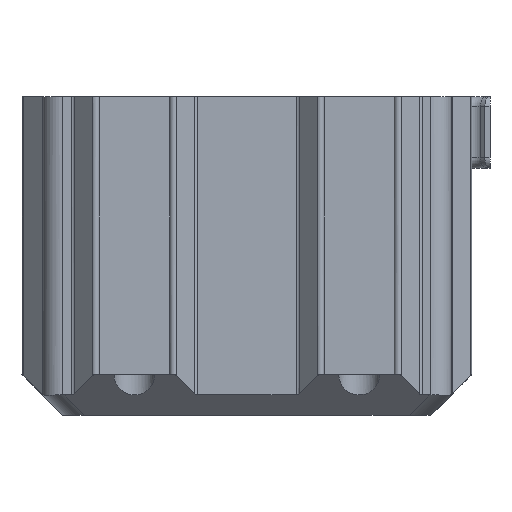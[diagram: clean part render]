
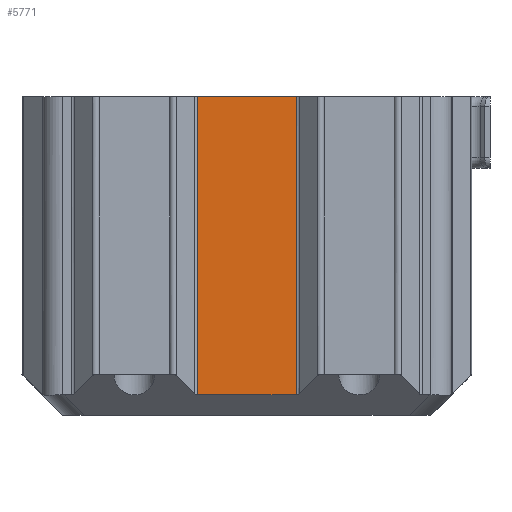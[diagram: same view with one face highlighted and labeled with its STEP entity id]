
A CAD part, left-side view. The second image highlights one B-rep face of the part: STEP entity #5771.
In plain terms, the highlighted planar face has unit normal (-1, 0, 0).
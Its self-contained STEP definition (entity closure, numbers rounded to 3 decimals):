
#658=FACE_OUTER_BOUND('',#954,.T.);
#954=EDGE_LOOP('',(#4802,#4803,#4804,#4805));
#1177=LINE('',#8562,#1713);
#1438=LINE('',#9375,#1974);
#1452=LINE('',#9411,#1988);
#1489=LINE('',#9512,#2025);
#1713=VECTOR('',#6817,10.);
#1974=VECTOR('',#7658,10.);
#1988=VECTOR('',#7698,10.);
#2025=VECTOR('',#7831,10.);
#2273=VERTEX_POINT('',#8559);
#2274=VERTEX_POINT('',#8561);
#2535=VERTEX_POINT('',#9372);
#2536=VERTEX_POINT('',#9374);
#2852=EDGE_CURVE('',#2273,#2274,#1177,.T.);
#3259=EDGE_CURVE('',#2535,#2536,#1438,.T.);
#3279=EDGE_CURVE('',#2536,#2273,#1452,.T.);
#3330=EDGE_CURVE('',#2274,#2535,#1489,.T.);
#4802=ORIENTED_EDGE('',*,*,#3279,.F.);
#4803=ORIENTED_EDGE('',*,*,#3259,.F.);
#4804=ORIENTED_EDGE('',*,*,#3330,.F.);
#4805=ORIENTED_EDGE('',*,*,#2852,.F.);
#5223=PLANE('',#6319);
#5771=ADVANCED_FACE('',(#658),#5223,.T.);
#6319=AXIS2_PLACEMENT_3D('',#9515,#7836,#7837);
#6817=DIRECTION('',(0.,-1.,0.));
#7658=DIRECTION('',(0.,1.,0.));
#7698=DIRECTION('',(0.,0.,1.));
#7831=DIRECTION('',(0.,0.,-1.));
#7836=DIRECTION('center_axis',(-1.,0.,0.));
#7837=DIRECTION('ref_axis',(0.,1.,0.));
#8559=CARTESIAN_POINT('',(2.,26.834,0.));
#8561=CARTESIAN_POINT('',(2.,17.166,0.));
#8562=CARTESIAN_POINT('',(2.,42.,0.));
#9372=CARTESIAN_POINT('',(2.,17.166,-29.2));
#9374=CARTESIAN_POINT('',(2.,26.834,-29.2));
#9375=CARTESIAN_POINT('',(2.,12.,-29.2));
#9411=CARTESIAN_POINT('',(2.,26.834,0.));
#9512=CARTESIAN_POINT('',(2.,17.166,0.));
#9515=CARTESIAN_POINT('Origin',(2.,2.,0.));
